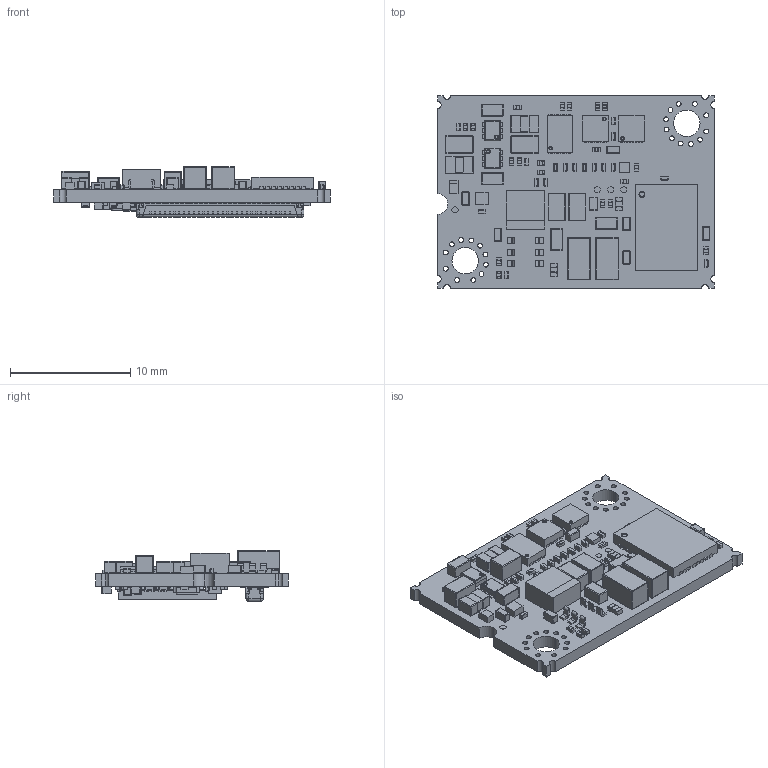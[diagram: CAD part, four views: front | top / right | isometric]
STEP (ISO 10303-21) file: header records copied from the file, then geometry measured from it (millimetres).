
FILE_DESCRIPTION((''),'2;1');
FILE_NAME('11733191','2024-10-11T11:10:46',('MMAGGUKA'),(''),'CREO PARAMETRIC BY PTC INC, 2022484','CREO PARAMETRIC BY PTC INC, 2022484','');
FILE_SCHEMA(('CONFIG_CONTROL_DESIGN','SHAPE_APPEARANCE_LAYERS_GROUPS'));
Products named in the file (1): 11733191
Bounding box: 23 x 16 x 4.21 mm (x, y, z)
Volume: 601.2 mm3; surface area: 1558.7 mm2
Topology: 2 solids, 2 shells, 8344 faces, 21575 edges, 12230 vertices
Faces by surface type: plane 4342, cylinder 2866, sphere 1112, torus 20, bspline 4
Entity records: 256618 total; most frequent: CARTESIAN_POINT 47439, ORIENTED_EDGE 40526, DIRECTION 39217, EDGE_CURVE 20263, VECTOR 14893, LINE 14893, VERTEX_POINT 12230, AXIS2_PLACEMENT_3D 12162
